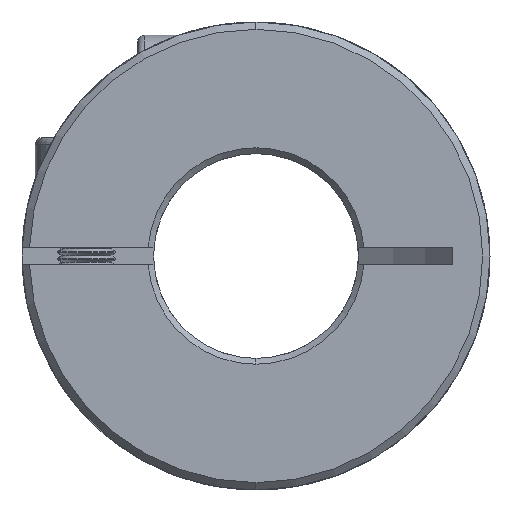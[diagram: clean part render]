
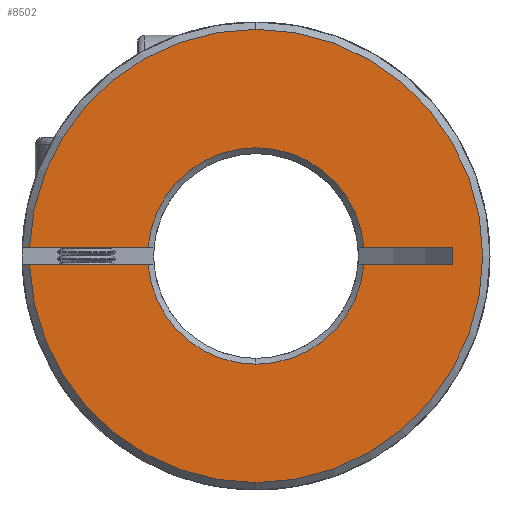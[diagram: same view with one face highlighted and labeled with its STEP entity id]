
A CAD part, front view. The second image highlights one B-rep face of the part: STEP entity #8502.
In plain terms, the highlighted planar face has unit normal (0, -1, 0).
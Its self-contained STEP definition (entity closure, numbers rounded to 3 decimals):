
#122 = AXIS2_PLACEMENT_3D ( 'NONE', #1233, #3931, #2036 ) ;
#283 = AXIS2_PLACEMENT_3D ( 'NONE', #604, #3949, #2317 ) ;
#410 = VECTOR ( 'NONE', #1396, 1000. ) ;
#542 = EDGE_CURVE ( 'NONE', #8789, #9409, #8690, .T. ) ;
#604 = CARTESIAN_POINT ( 'NONE',  ( 0., 0., 0. ) ) ;
#923 = CARTESIAN_POINT ( 'NONE',  ( 0., 0., -7.4 ) ) ;
#1040 = DIRECTION ( 'NONE',  ( 1., 0., 0. ) ) ;
#1233 = CARTESIAN_POINT ( 'NONE',  ( 0., 0., 0. ) ) ;
#1296 = LINE ( 'NONE', #4812, #8795 ) ;
#1324 = PLANE ( 'NONE',  #4856 ) ;
#1396 = DIRECTION ( 'NONE',  ( 1., 0., 0. ) ) ;
#1666 = ORIENTED_EDGE ( 'NONE', *, *, #542, .T. ) ;
#1678 = CARTESIAN_POINT ( 'NONE',  ( 13.436, 0., -0.6 ) ) ;
#1956 = AXIS2_PLACEMENT_3D ( 'NONE', #9878, #6451, #4692 ) ;
#1994 = CARTESIAN_POINT ( 'NONE',  ( -15.488, 0., 0.6 ) ) ;
#2036 = DIRECTION ( 'NONE',  ( 0., 0., 1. ) ) ;
#2078 = DIRECTION ( 'NONE',  ( 0., -1., 0. ) ) ;
#2276 = DIRECTION ( 'NONE',  ( 0., 0., 1. ) ) ;
#2317 = DIRECTION ( 'NONE',  ( 0., 0., 1. ) ) ;
#2369 = AXIS2_PLACEMENT_3D ( 'NONE', #10846, #9237, #2276 ) ;
#2417 = CIRCLE ( 'NONE', #283, 7.4 ) ;
#2660 = VERTEX_POINT ( 'NONE', #7126 ) ;
#2798 = EDGE_CURVE ( 'NONE', #5150, #9424, #5298, .T. ) ;
#2824 = EDGE_CURVE ( 'NONE', #9424, #7268, #8550, .T. ) ;
#2880 = EDGE_CURVE ( 'NONE', #7268, #10373, #5690, .T. ) ;
#2898 = VERTEX_POINT ( 'NONE', #9951 ) ;
#2971 = DIRECTION ( 'NONE',  ( 0., 0., 1. ) ) ;
#3138 = FACE_OUTER_BOUND ( 'NONE', #6729, .T. ) ;
#3257 = CARTESIAN_POINT ( 'NONE',  ( -50., 0., -18.413 ) ) ;
#3296 = ORIENTED_EDGE ( 'NONE', *, *, #3912, .T. ) ;
#3418 = AXIS2_PLACEMENT_3D ( 'NONE', #5524, #2078, #2971 ) ;
#3778 = DIRECTION ( 'NONE',  ( 0., -1., 0. ) ) ;
#3892 = CARTESIAN_POINT ( 'NONE',  ( 0., 0., 0. ) ) ;
#3908 = EDGE_CURVE ( 'NONE', #2660, #8789, #1296, .T. ) ;
#3912 = EDGE_CURVE ( 'NONE', #10147, #2660, #5411, .T. ) ;
#3931 = DIRECTION ( 'NONE',  ( 0., -1., 0. ) ) ;
#3949 = DIRECTION ( 'NONE',  ( 0., 1., 0. ) ) ;
#4087 = CARTESIAN_POINT ( 'NONE',  ( -7.376, 0., 0.6 ) ) ;
#4475 = EDGE_CURVE ( 'NONE', #5150, #2898, #8408, .T. ) ;
#4692 = DIRECTION ( 'NONE',  ( 0., 0., 1. ) ) ;
#4735 = DIRECTION ( 'NONE',  ( 1., 0., 0. ) ) ;
#4791 = ORIENTED_EDGE ( 'NONE', *, *, #7933, .T. ) ;
#4812 = CARTESIAN_POINT ( 'NONE',  ( -50., 0., 0.6 ) ) ;
#4818 = CARTESIAN_POINT ( 'NONE',  ( 13.436, 0., -0.6 ) ) ;
#4856 = AXIS2_PLACEMENT_3D ( 'NONE', #3257, #6661, #7455 ) ;
#5018 = LINE ( 'NONE', #6940, #9063 ) ;
#5105 = EDGE_CURVE ( 'NONE', #6753, #5350, #2417, .T. ) ;
#5150 = VERTEX_POINT ( 'NONE', #7583 ) ;
#5298 = CIRCLE ( 'NONE', #122, 15.5 ) ;
#5350 = VERTEX_POINT ( 'NONE', #923 ) ;
#5411 = CIRCLE ( 'NONE', #2369, 7.4 ) ;
#5518 = AXIS2_PLACEMENT_3D ( 'NONE', #3892, #3778, #9915 ) ;
#5524 = CARTESIAN_POINT ( 'NONE',  ( 0., 0., 0. ) ) ;
#5690 = CIRCLE ( 'NONE', #3418, 15.5 ) ;
#5791 = ORIENTED_EDGE ( 'NONE', *, *, #3908, .T. ) ;
#6389 = VECTOR ( 'NONE', #6583, 1000. ) ;
#6451 = DIRECTION ( 'NONE',  ( 0., 1., 0. ) ) ;
#6583 = DIRECTION ( 'NONE',  ( 0., 0., -1. ) ) ;
#6661 = DIRECTION ( 'NONE',  ( 0., 1., 0. ) ) ;
#6680 = DIRECTION ( 'NONE',  ( 1., 0., 0. ) ) ;
#6729 = EDGE_LOOP ( 'NONE', ( #10048, #10553, #7311, #9058, #4791, #3296, #5791, #1666, #11166, #10563, #11182 ) ) ;
#6753 = VERTEX_POINT ( 'NONE', #10755 ) ;
#6940 = CARTESIAN_POINT ( 'NONE',  ( -50., 0., -0.6 ) ) ;
#7086 = CARTESIAN_POINT ( 'NONE',  ( 0., 0., -15.5 ) ) ;
#7126 = CARTESIAN_POINT ( 'NONE',  ( 7.376, 0., 0.6 ) ) ;
#7268 = VERTEX_POINT ( 'NONE', #10943 ) ;
#7311 = ORIENTED_EDGE ( 'NONE', *, *, #2824, .T. ) ;
#7455 = DIRECTION ( 'NONE',  ( 0., 0., 1. ) ) ;
#7583 = CARTESIAN_POINT ( 'NONE',  ( -15.488, 0., -0.6 ) ) ;
#7773 = EDGE_CURVE ( 'NONE', #5350, #2898, #8721, .T. ) ;
#7933 = EDGE_CURVE ( 'NONE', #10373, #10147, #8178, .T. ) ;
#8129 = VECTOR ( 'NONE', #6680, 1000. ) ;
#8178 = LINE ( 'NONE', #11022, #410 ) ;
#8408 = LINE ( 'NONE', #10952, #8129 ) ;
#8502 = ADVANCED_FACE ( 'NONE', ( #3138 ), #1324, .F. ) ;
#8550 = CIRCLE ( 'NONE', #5518, 15.5 ) ;
#8690 = LINE ( 'NONE', #4818, #6389 ) ;
#8721 = CIRCLE ( 'NONE', #1956, 7.4 ) ;
#8789 = VERTEX_POINT ( 'NONE', #9347 ) ;
#8795 = VECTOR ( 'NONE', #4735, 1000. ) ;
#9058 = ORIENTED_EDGE ( 'NONE', *, *, #2880, .T. ) ;
#9063 = VECTOR ( 'NONE', #1040, 1000. ) ;
#9237 = DIRECTION ( 'NONE',  ( 0., 1., 0. ) ) ;
#9347 = CARTESIAN_POINT ( 'NONE',  ( 13.436, 0., 0.6 ) ) ;
#9409 = VERTEX_POINT ( 'NONE', #1678 ) ;
#9424 = VERTEX_POINT ( 'NONE', #7086 ) ;
#9466 = EDGE_CURVE ( 'NONE', #6753, #9409, #5018, .T. ) ;
#9878 = CARTESIAN_POINT ( 'NONE',  ( 0., 0., 0. ) ) ;
#9915 = DIRECTION ( 'NONE',  ( 0., 0., 1. ) ) ;
#9951 = CARTESIAN_POINT ( 'NONE',  ( -7.376, 0., -0.6 ) ) ;
#10048 = ORIENTED_EDGE ( 'NONE', *, *, #4475, .F. ) ;
#10147 = VERTEX_POINT ( 'NONE', #4087 ) ;
#10373 = VERTEX_POINT ( 'NONE', #1994 ) ;
#10553 = ORIENTED_EDGE ( 'NONE', *, *, #2798, .T. ) ;
#10563 = ORIENTED_EDGE ( 'NONE', *, *, #5105, .T. ) ;
#10755 = CARTESIAN_POINT ( 'NONE',  ( 7.376, 0., -0.6 ) ) ;
#10846 = CARTESIAN_POINT ( 'NONE',  ( 0., 0., 0. ) ) ;
#10943 = CARTESIAN_POINT ( 'NONE',  ( 0., 0., 15.5 ) ) ;
#10952 = CARTESIAN_POINT ( 'NONE',  ( -50., 0., -0.6 ) ) ;
#11022 = CARTESIAN_POINT ( 'NONE',  ( -50., 0., 0.6 ) ) ;
#11166 = ORIENTED_EDGE ( 'NONE', *, *, #9466, .F. ) ;
#11182 = ORIENTED_EDGE ( 'NONE', *, *, #7773, .T. ) ;
